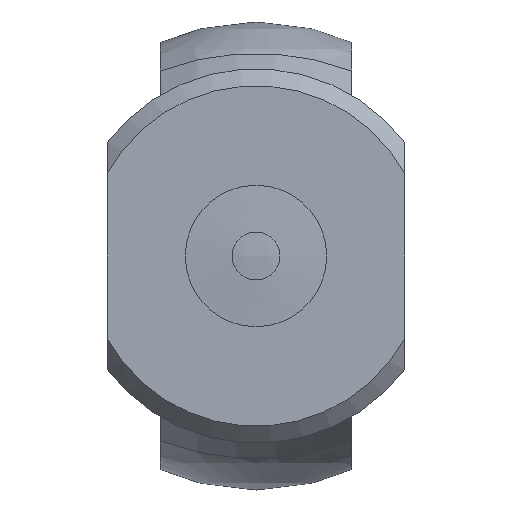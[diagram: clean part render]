
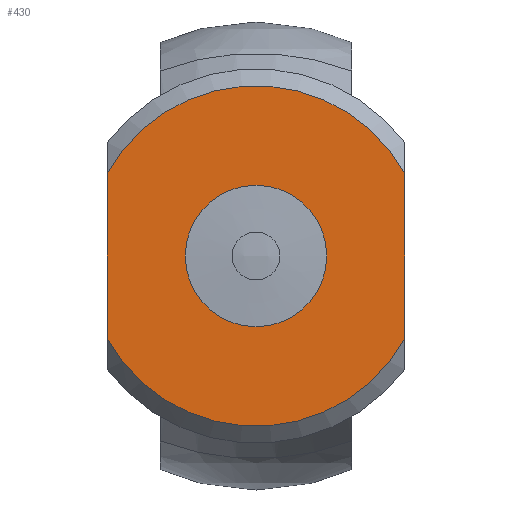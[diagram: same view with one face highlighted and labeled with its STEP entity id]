
A CAD part, front view. The second image highlights one B-rep face of the part: STEP entity #430.
In plain terms, the highlighted planar face has unit normal (0, -1, 0).
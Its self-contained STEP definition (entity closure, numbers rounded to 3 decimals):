
#60=CIRCLE('',#474,8.);
#65=CIRCLE('',#488,8.);
#66=CIRCLE('',#490,3.323);
#139=ORIENTED_EDGE('',*,*,#230,.T.);
#140=ORIENTED_EDGE('',*,*,#229,.F.);
#141=ORIENTED_EDGE('',*,*,#220,.T.);
#142=ORIENTED_EDGE('',*,*,#212,.F.);
#143=ORIENTED_EDGE('',*,*,#231,.T.);
#212=EDGE_CURVE('',#261,#262,#60,.T.);
#220=EDGE_CURVE('',#266,#262,#296,.T.);
#229=EDGE_CURVE('',#266,#271,#65,.T.);
#230=EDGE_CURVE('',#261,#271,#299,.T.);
#231=EDGE_CURVE('',#272,#272,#66,.T.);
#261=VERTEX_POINT('',#718);
#262=VERTEX_POINT('',#720);
#266=VERTEX_POINT('',#738);
#271=VERTEX_POINT('',#762);
#272=VERTEX_POINT('',#767);
#296=LINE('',#737,#314);
#299=LINE('',#765,#317);
#314=VECTOR('',#580,1000.);
#317=VECTOR('',#597,1000.);
#335=EDGE_LOOP('',(#139,#140,#141,#142));
#336=EDGE_LOOP('',(#143));
#379=FACE_BOUND('',#335,.T.);
#380=FACE_BOUND('',#336,.T.);
#412=PLANE('',#489);
#430=ADVANCED_FACE('',(#379,#380),#412,.T.);
#474=AXIS2_PLACEMENT_3D('',#719,#560,#561);
#488=AXIS2_PLACEMENT_3D('',#763,#593,#594);
#489=AXIS2_PLACEMENT_3D('',#764,#595,#596);
#490=AXIS2_PLACEMENT_3D('',#766,#598,#599);
#560=DIRECTION('',(0.,1.,0.));
#561=DIRECTION('',(1.,0.,0.));
#580=DIRECTION('',(0.,0.,1.));
#593=DIRECTION('',(0.,1.,0.));
#594=DIRECTION('',(1.,0.,0.));
#595=DIRECTION('',(0.,-1.,0.));
#596=DIRECTION('',(-1.,0.,0.));
#597=DIRECTION('',(0.,0.,-1.));
#598=DIRECTION('',(0.,1.,0.));
#599=DIRECTION('',(1.,0.,0.));
#718=CARTESIAN_POINT('',(-7.,-36.,3.873));
#719=CARTESIAN_POINT('',(0.,-36.,0.));
#720=CARTESIAN_POINT('',(7.,-36.,3.873));
#737=CARTESIAN_POINT('',(7.,-36.,0.));
#738=CARTESIAN_POINT('',(7.,-36.,-3.873));
#762=CARTESIAN_POINT('',(-7.,-36.,-3.873));
#763=CARTESIAN_POINT('',(0.,-36.,0.));
#764=CARTESIAN_POINT('',(4.,-36.,0.));
#765=CARTESIAN_POINT('',(-7.,-36.,0.));
#766=CARTESIAN_POINT('',(0.,-36.,0.));
#767=CARTESIAN_POINT('',(3.323,-36.,0.));
